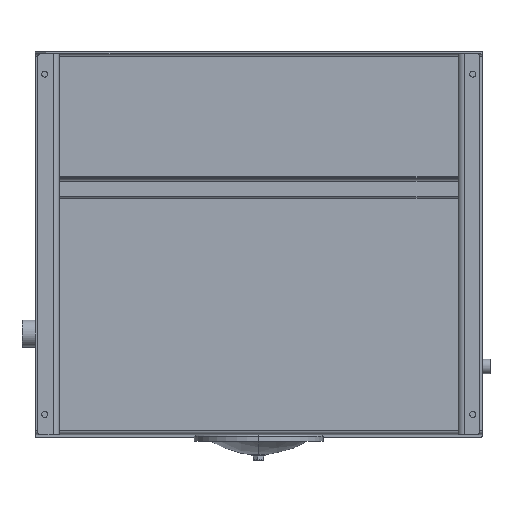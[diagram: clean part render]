
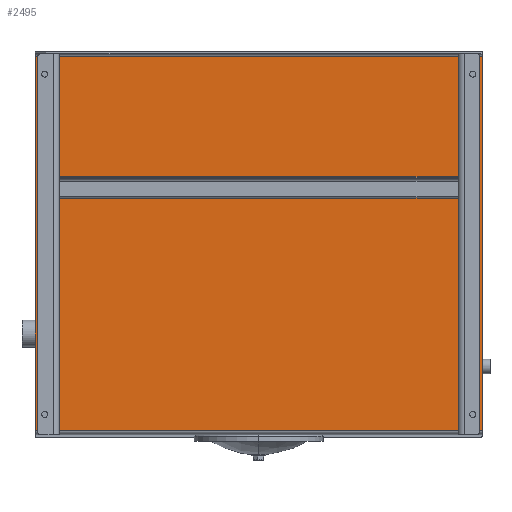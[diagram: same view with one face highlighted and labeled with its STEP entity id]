
A CAD part, front view. The second image highlights one B-rep face of the part: STEP entity #2495.
In plain terms, the highlighted planar face has unit normal (0, -1, 0).
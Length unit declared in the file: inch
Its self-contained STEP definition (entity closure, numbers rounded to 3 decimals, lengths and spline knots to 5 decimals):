
#112 = ORIENTED_EDGE ( 'NONE', *, *, #14281, .F. ) ;
#428 = EDGE_CURVE ( 'NONE', #3351, #2544, #12237, .T. ) ;
#1338 = CARTESIAN_POINT ( 'NONE',  ( 13.33219, -11.94235, -12.32963 ) ) ;
#2158 = EDGE_CURVE ( 'NONE', #18965, #3351, #3847, .T. ) ;
#2159 = ORIENTED_EDGE ( 'NONE', *, *, #428, .F. ) ;
#2495 = ADVANCED_FACE ( 'NONE', ( #20285 ), #9008, .T. ) ;
#2544 = VERTEX_POINT ( 'NONE', #8138 ) ;
#2816 = VECTOR ( 'NONE', #13380, 39.37008 ) ;
#3351 = VERTEX_POINT ( 'NONE', #21733 ) ;
#3427 = ORIENTED_EDGE ( 'NONE', *, *, #2158, .F. ) ;
#3847 = LINE ( 'NONE', #15694, #17307 ) ;
#4077 = CARTESIAN_POINT ( 'NONE',  ( -28.66781, -11.94235, -12.32963 ) ) ;
#6892 = LINE ( 'NONE', #4077, #15597 ) ;
#8138 = CARTESIAN_POINT ( 'NONE',  ( 13.33219, -11.94235, 22.81177 ) ) ;
#8650 = DIRECTION ( 'NONE',  ( 0., 0., -1. ) ) ;
#8696 = DIRECTION ( 'NONE',  ( 0., -1., 0. ) ) ;
#8721 = CARTESIAN_POINT ( 'NONE',  ( -28.66781, -11.94235, -12.75893 ) ) ;
#9008 = PLANE ( 'NONE',  #9694 ) ;
#9412 = DIRECTION ( 'NONE',  ( 1., 0., 0. ) ) ;
#9694 = AXIS2_PLACEMENT_3D ( 'NONE', #8721, #8696, #8650 ) ;
#11193 = LINE ( 'NONE', #22080, #19735 ) ;
#11547 = EDGE_CURVE ( 'NONE', #18965, #16841, #6892, .T. ) ;
#11975 = DIRECTION ( 'NONE',  ( 0., 0., -1. ) ) ;
#12237 = LINE ( 'NONE', #13455, #2816 ) ;
#13089 = CARTESIAN_POINT ( 'NONE',  ( -28.66781, -11.94235, -12.32963 ) ) ;
#13380 = DIRECTION ( 'NONE',  ( 1., 0., 0. ) ) ;
#13455 = CARTESIAN_POINT ( 'NONE',  ( -28.66781, -11.94235, 22.81177 ) ) ;
#14281 = EDGE_CURVE ( 'NONE', #2544, #16841, #11193, .T. ) ;
#15597 = VECTOR ( 'NONE', #9412, 39.37008 ) ;
#15671 = DIRECTION ( 'NONE',  ( 0., 0., 1. ) ) ;
#15694 = CARTESIAN_POINT ( 'NONE',  ( -28.66781, -11.94235, 23.24107 ) ) ;
#16841 = VERTEX_POINT ( 'NONE', #1338 ) ;
#17290 = ORIENTED_EDGE ( 'NONE', *, *, #11547, .T. ) ;
#17307 = VECTOR ( 'NONE', #15671, 39.37008 ) ;
#18965 = VERTEX_POINT ( 'NONE', #13089 ) ;
#19382 = EDGE_LOOP ( 'NONE', ( #3427, #17290, #112, #2159 ) ) ;
#19735 = VECTOR ( 'NONE', #11975, 39.37008 ) ;
#20285 = FACE_OUTER_BOUND ( 'NONE', #19382, .T. ) ;
#21733 = CARTESIAN_POINT ( 'NONE',  ( -28.66781, -11.94235, 22.81177 ) ) ;
#22080 = CARTESIAN_POINT ( 'NONE',  ( 13.33219, -11.94235, 23.24107 ) ) ;
